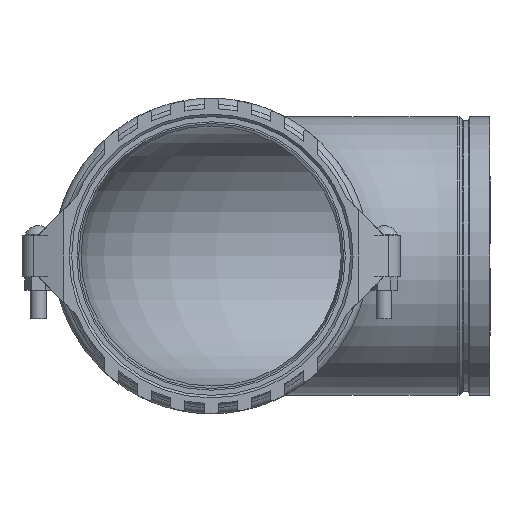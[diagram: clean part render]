
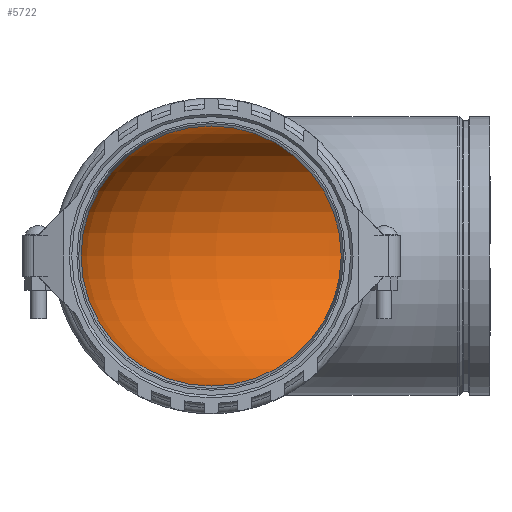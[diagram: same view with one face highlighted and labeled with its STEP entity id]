
A CAD part, left-side view. The second image highlights one B-rep face of the part: STEP entity #5722.
In plain terms, the highlighted toroidal (fillet/blend) face has major radius 449.58 mm and minor radius 236.982 mm.
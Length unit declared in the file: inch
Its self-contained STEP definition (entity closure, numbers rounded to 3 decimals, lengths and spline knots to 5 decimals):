
#284=TOROIDAL_SURFACE('',#6400,17.7,9.33);
#1304=FACE_OUTER_BOUND('',#1609,.T.);
#1609=EDGE_LOOP('',(#4927,#4928,#4929,#4930,#4931));
#1919=CIRCLE('',#6401,9.33);
#1920=CIRCLE('',#6402,8.37);
#1921=CIRCLE('',#6403,9.33);
#1922=CIRCLE('',#6404,9.33);
#2498=VERTEX_POINT('',#12222);
#2499=VERTEX_POINT('',#12224);
#2500=VERTEX_POINT('',#12226);
#3318=EDGE_CURVE('',#2498,#2498,#1919,.T.);
#3319=EDGE_CURVE('',#2498,#2499,#1920,.T.);
#3320=EDGE_CURVE('',#2499,#2500,#1921,.T.);
#3321=EDGE_CURVE('',#2500,#2499,#1922,.T.);
#4927=ORIENTED_EDGE('',*,*,#3318,.F.);
#4928=ORIENTED_EDGE('',*,*,#3319,.T.);
#4929=ORIENTED_EDGE('',*,*,#3320,.T.);
#4930=ORIENTED_EDGE('',*,*,#3321,.T.);
#4931=ORIENTED_EDGE('',*,*,#3319,.F.);
#5722=ADVANCED_FACE('',(#1304),#284,.F.);
#6400=AXIS2_PLACEMENT_3D('',#12221,#7885,#7886);
#6401=AXIS2_PLACEMENT_3D('',#12223,#7887,#7888);
#6402=AXIS2_PLACEMENT_3D('',#12225,#7889,#7890);
#6403=AXIS2_PLACEMENT_3D('',#12227,#7891,#7892);
#6404=AXIS2_PLACEMENT_3D('',#12228,#7893,#7894);
#7885=DIRECTION('center_axis',(0.,0.,-1.));
#7886=DIRECTION('ref_axis',(-1.,0.,0.));
#7887=DIRECTION('center_axis',(0.,1.,0.));
#7888=DIRECTION('ref_axis',(-1.,0.,0.));
#7889=DIRECTION('center_axis',(0.,0.,-1.));
#7890=DIRECTION('ref_axis',(-1.,0.,0.));
#7891=DIRECTION('center_axis',(1.,0.,0.));
#7892=DIRECTION('ref_axis',(0.,1.,0.));
#7893=DIRECTION('center_axis',(1.,0.,0.));
#7894=DIRECTION('ref_axis',(0.,1.,0.));
#12221=CARTESIAN_POINT('Origin',(17.7,-17.7,0.));
#12222=CARTESIAN_POINT('',(9.33,-17.7,0.));
#12223=CARTESIAN_POINT('Origin',(0.,-17.7,0.));
#12224=CARTESIAN_POINT('',(17.7,-9.33,0.));
#12225=CARTESIAN_POINT('Origin',(17.7,-17.7,0.));
#12226=CARTESIAN_POINT('',(17.7,0.,9.33));
#12227=CARTESIAN_POINT('Origin',(17.7,0.,0.));
#12228=CARTESIAN_POINT('Origin',(17.7,0.,0.));
